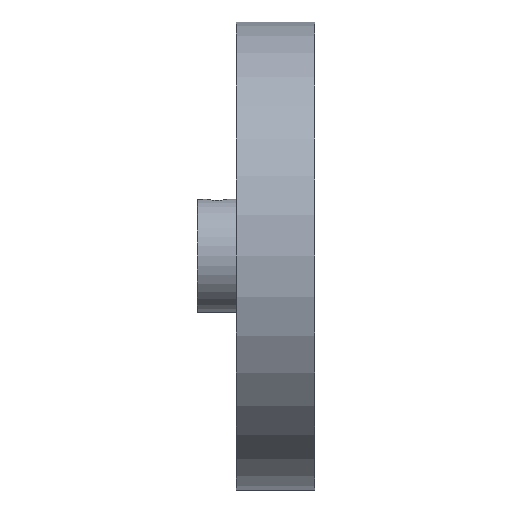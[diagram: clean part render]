
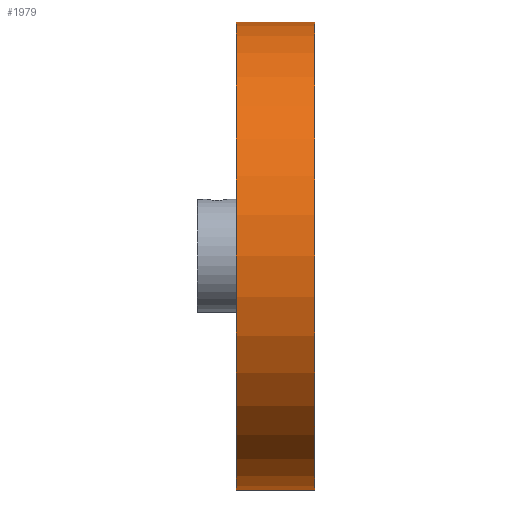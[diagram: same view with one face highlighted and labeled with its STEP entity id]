
A CAD part, left-side view. The second image highlights one B-rep face of the part: STEP entity #1979.
In plain terms, the highlighted cylindrical face has radius 76.2 mm (diameter 152.4 mm), a full revolution.
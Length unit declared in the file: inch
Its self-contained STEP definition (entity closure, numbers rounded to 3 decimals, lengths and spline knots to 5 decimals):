
#267=FACE_OUTER_BOUND('',#361,.T.);
#361=EDGE_LOOP('',(#1620,#1621,#1622,#1623));
#547=LINE('',#3314,#693);
#693=VECTOR('',#2768,3.);
#812=CIRCLE('',#2209,3.);
#813=CIRCLE('',#2210,3.);
#988=VERTEX_POINT('',#3311);
#989=VERTEX_POINT('',#3313);
#1259=EDGE_CURVE('',#988,#988,#812,.T.);
#1260=EDGE_CURVE('',#988,#989,#547,.T.);
#1261=EDGE_CURVE('',#989,#989,#813,.T.);
#1620=ORIENTED_EDGE('',*,*,#1259,.F.);
#1621=ORIENTED_EDGE('',*,*,#1260,.T.);
#1622=ORIENTED_EDGE('',*,*,#1261,.T.);
#1623=ORIENTED_EDGE('',*,*,#1260,.F.);
#1889=CYLINDRICAL_SURFACE('',#2208,3.);
#1979=ADVANCED_FACE('',(#267),#1889,.T.);
#2208=AXIS2_PLACEMENT_3D('',#3310,#2764,#2765);
#2209=AXIS2_PLACEMENT_3D('',#3312,#2766,#2767);
#2210=AXIS2_PLACEMENT_3D('',#3315,#2769,#2770);
#2764=DIRECTION('center_axis',(0.,1.,0.));
#2765=DIRECTION('ref_axis',(-1.,0.,0.));
#2766=DIRECTION('center_axis',(0.,1.,0.));
#2767=DIRECTION('ref_axis',(-1.,0.,0.));
#2768=DIRECTION('',(0.,-1.,0.));
#2769=DIRECTION('center_axis',(0.,1.,0.));
#2770=DIRECTION('ref_axis',(-1.,0.,0.));
#3310=CARTESIAN_POINT('Origin',(0.,0.,0.));
#3311=CARTESIAN_POINT('',(3.,1.,0.));
#3312=CARTESIAN_POINT('Origin',(0.,1.,0.));
#3313=CARTESIAN_POINT('',(3.,0.,0.));
#3314=CARTESIAN_POINT('',(3.,0.,0.));
#3315=CARTESIAN_POINT('Origin',(0.,0.,0.));
